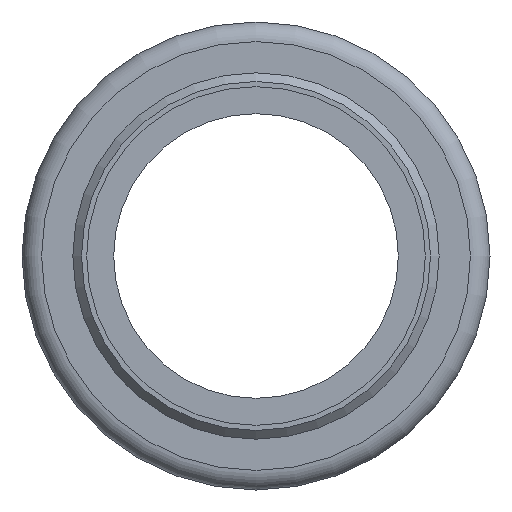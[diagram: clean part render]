
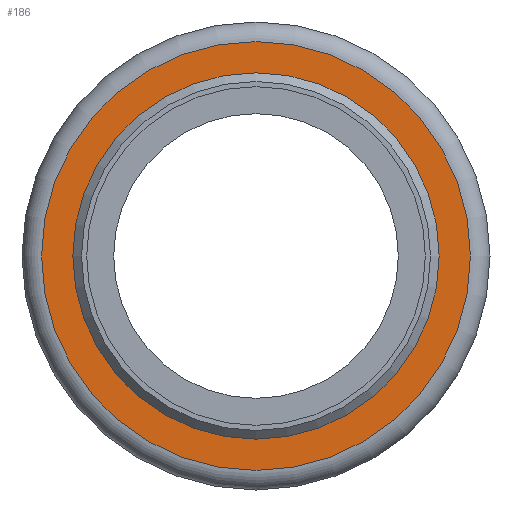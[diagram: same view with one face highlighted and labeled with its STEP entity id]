
A CAD part, front view. The second image highlights one B-rep face of the part: STEP entity #186.
In plain terms, the highlighted planar face has unit normal (0, -1, 0).
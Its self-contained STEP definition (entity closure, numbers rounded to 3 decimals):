
#34=PLANE('',#236);
#55=ORIENTED_EDGE('',*,*,#81,.T.);
#56=ORIENTED_EDGE('',*,*,#80,.F.);
#80=EDGE_CURVE('',#95,#95,#110,.T.);
#81=EDGE_CURVE('',#96,#96,#111,.T.);
#95=VERTEX_POINT('',#342);
#96=VERTEX_POINT('',#345);
#110=CIRCLE('',#235,84.15);
#111=CIRCLE('',#237,98.5);
#130=EDGE_LOOP('',(#55));
#131=EDGE_LOOP('',(#56));
#160=FACE_BOUND('',#130,.T.);
#161=FACE_BOUND('',#131,.T.);
#186=ADVANCED_FACE('',(#160,#161),#34,.T.);
#235=AXIS2_PLACEMENT_3D('',#341,#282,#283);
#236=AXIS2_PLACEMENT_3D('',#343,#284,#285);
#237=AXIS2_PLACEMENT_3D('',#344,#286,#287);
#282=DIRECTION('',(0.,-1.,0.));
#283=DIRECTION('',(0.,0.,-1.));
#284=DIRECTION('',(0.,-1.,0.));
#285=DIRECTION('',(0.,0.,-1.));
#286=DIRECTION('',(0.,-1.,0.));
#287=DIRECTION('',(0.,0.,-1.));
#341=CARTESIAN_POINT('',(0.,0.,0.));
#342=CARTESIAN_POINT('',(0.,0.,-84.15));
#343=CARTESIAN_POINT('',(0.,0.,84.15));
#344=CARTESIAN_POINT('',(0.,0.,0.));
#345=CARTESIAN_POINT('',(0.,0.,-98.5));
